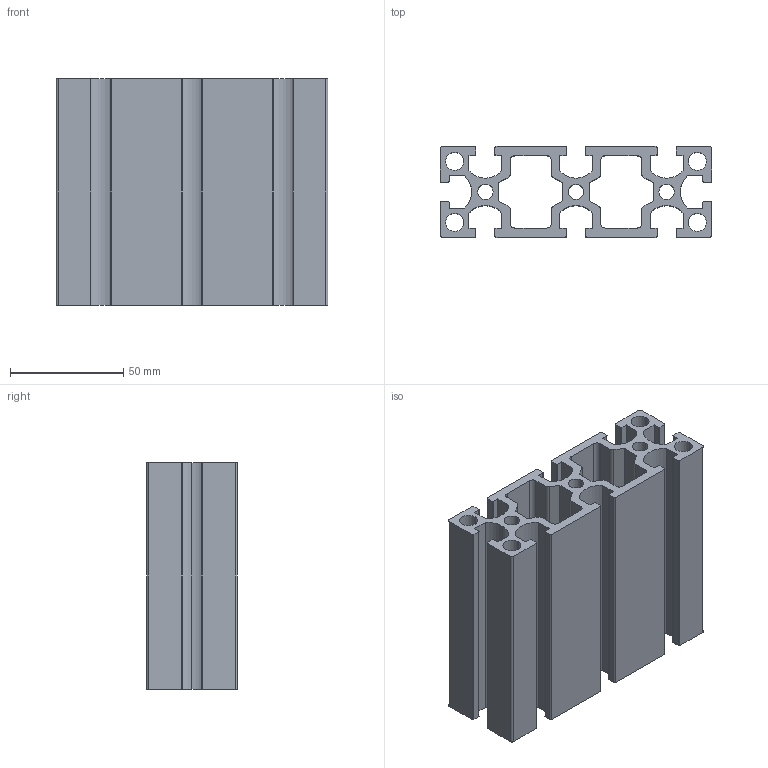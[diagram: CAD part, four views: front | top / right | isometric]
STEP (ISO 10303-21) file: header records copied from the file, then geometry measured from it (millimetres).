
FILE_DESCRIPTION (( 'STEP AP203' ), '1' );
FILE_NAME ('WS40120-8.STEP', '2024-02-19T05:19:00', ( '' ), ( '' ), 'SwSTEP 2.0', 'SolidWorks 2022', '' );
FILE_SCHEMA (( 'CONFIG_CONTROL_DESIGN' ));
Length unit declared in the file: millimetre
Products named in the file (1): WS40120-8
Bounding box: 120 x 40 x 100 mm (x, y, z)
Volume: 181313.2 mm3; surface area: 101059.3 mm2
Topology: 1 solids, 1 shells, 161 faces, 477 edges, 318 vertices
Faces by surface type: plane 86, cylinder 75
Entity records: 5534 total; most frequent: CARTESIAN_POINT 957, ORIENTED_EDGE 954, DIRECTION 951, EDGE_CURVE 477, VECTOR 327, LINE 327, VERTEX_POINT 318, AXIS2_PLACEMENT_3D 312
